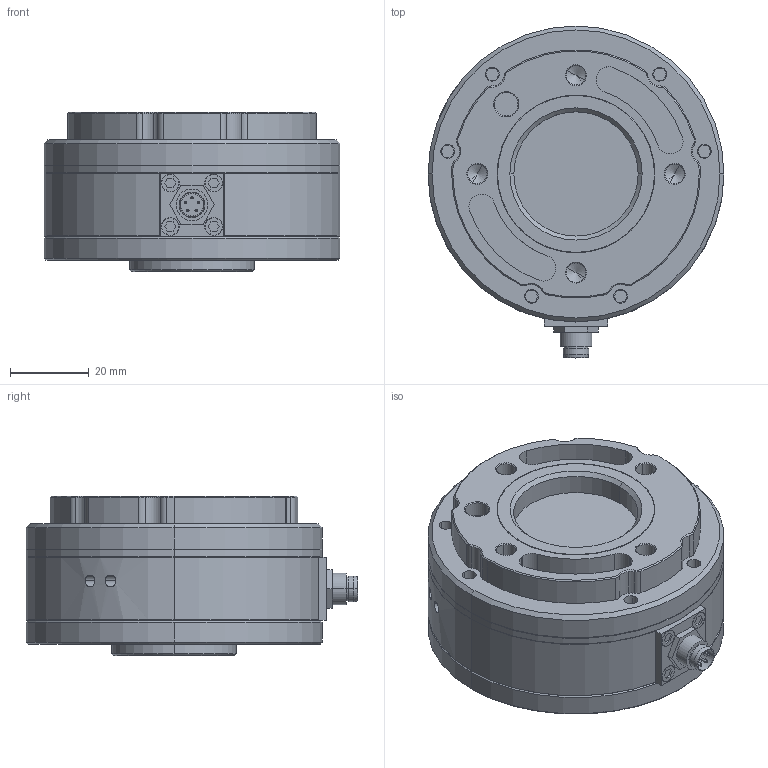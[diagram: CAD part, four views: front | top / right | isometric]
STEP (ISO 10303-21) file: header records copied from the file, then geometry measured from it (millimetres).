
FILE_DESCRIPTION(('CATIA V5 STEP Exchange'),'2;1');
FILE_NAME('C:\Users\SunJunli\Desktop\jaka-200.stp','2022-06-08T23:19:25+00:00',('none'),('none'),'CATIA Version 5 Release 20 SP 5 (IN-10)','CATIA V5 STEP AP203','none');
FILE_SCHEMA(('CONFIG_CONTROL_DESIGN'));
Length unit declared in the file: millimetre
Products named in the file (1): 产品1_AllCATPart
Bounding box: 75 x 84.1 x 40.5 mm (x, y, z)
Volume: 114455.1 mm3; surface area: 51400.1 mm2
Topology: 18 solids, 28 shells, 921 faces, 2178 edges, 1361 vertices
Faces by surface type: cylinder 377, plane 317, cone 209, sphere 18
Entity records: 24186 total; most frequent: CARTESIAN_POINT 4385, ORIENTED_EDGE 4256, DIRECTION 3373, EDGE_CURVE 2128, AXIS2_PLACEMENT_3D 1662, VERTEX_POINT 1361, EDGE_LOOP 1079, VECTOR 1074
